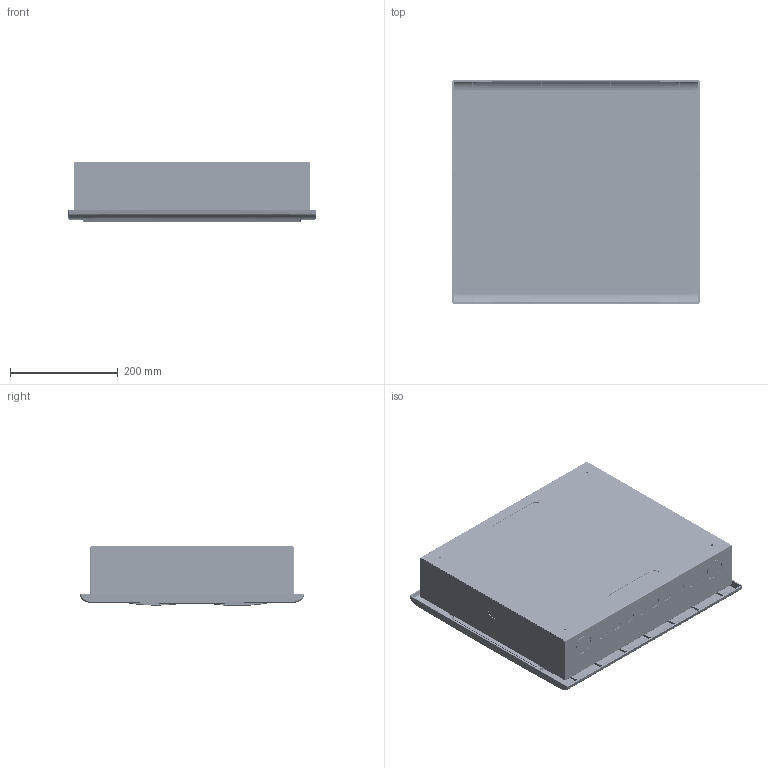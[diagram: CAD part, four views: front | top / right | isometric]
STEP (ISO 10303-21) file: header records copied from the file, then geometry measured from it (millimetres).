
FILE_DESCRIPTION (( 'STEP AP203' ), '1' );
FILE_NAME ('M3-A 240.STEP', '2021-02-26T01:06:28', ( '' ), ( '' ), 'SwSTEP 2.0', 'SolidWorks 2020', '' );
FILE_SCHEMA (( 'CONFIG_CONTROL_DESIGN' ));
Length unit declared in the file: millimetre
Products named in the file (26): HG031-240; M3-240MB; plain washers-n series-grade a gb_GB_FASTENER_WASHER_PWNA 6; H03-2LR; 半圆头自带垫螺钉M4X6; M3-120HDM; BEJL-R; D04-18; 傷赽嘐隅蹟隊; M5爾眊傷赽盓殤; M3-240DZ; M3-A 240DX; 諉華蹟隊; T31N18; hexagon nuts grade c gb_GB_FASTENER_NUT_SNC1 M6-S; BEJL-L; T31P17; G13-20; M6諉華蹟隊杶璃; M3-A 240DX(ZT); M3-A 224~240DX(CB); M3-A 240; spring lock washers--normal type gb_GB_FASTENER_WASHER_SW 6; TD041-18; 肣沭蹟隊
Assembly tree (78 placements, depth 4):
  M3-A 240
    M3-A 240DX
      M3-A 240DX(ZT)
      M3-A 224~240DX(CB)  x2
      M6諉華蹟隊杶璃
        諉華蹟隊
        plain washers-n series-grade a gb_GB_FASTENER_WASHER_PWNA 6  x2
        spring lock washers--normal type gb_GB_FASTENER_WASHER_SW 6
        hexagon nuts grade c gb_GB_FASTENER_NUT_SNC1 M6-S
      M6諉華蹟隊杶璃
        諉華蹟隊
        plain washers-n series-grade a gb_GB_FASTENER_WASHER_PWNA 6  x2
        spring lock washers--normal type gb_GB_FASTENER_WASHER_SW 6
        hexagon nuts grade c gb_GB_FASTENER_NUT_SNC1 M6-S
      M5爾眊傷赽盓殤
    TD041-18
      D04-18
      肣沭蹟隊  x35
      T31P17
      T31N18
      傷赽嘐隅蹟隊
    HG031-240
      H03-2LR  x2
      G13-20  x2
      半圆头自带垫螺钉M4X6  x8
    M3-240MB
      M3-240DZ
      M3-120HDM  x2
      BEJL-L  x2
      BEJL-R  x2
Bounding box: 460 x 415.89 x 111.6 mm (x, y, z)
Volume: 1316150.2 mm3; surface area: 1623094 mm2
Topology: 84 solids, 84 shells, 10070 faces, 27001 edges, 17454 vertices
Faces by surface type: plane 4355, cylinder 3280, bspline 1485, torus 504, cone 424, sphere 22
Entity records: 320664 total; most frequent: CARTESIAN_POINT 181674, ORIENTED_EDGE 30790, DIRECTION 23988, EDGE_CURVE 15395, VERTEX_POINT 9930, VECTOR 8362, LINE 8362, AXIS2_PLACEMENT_3D 7813
